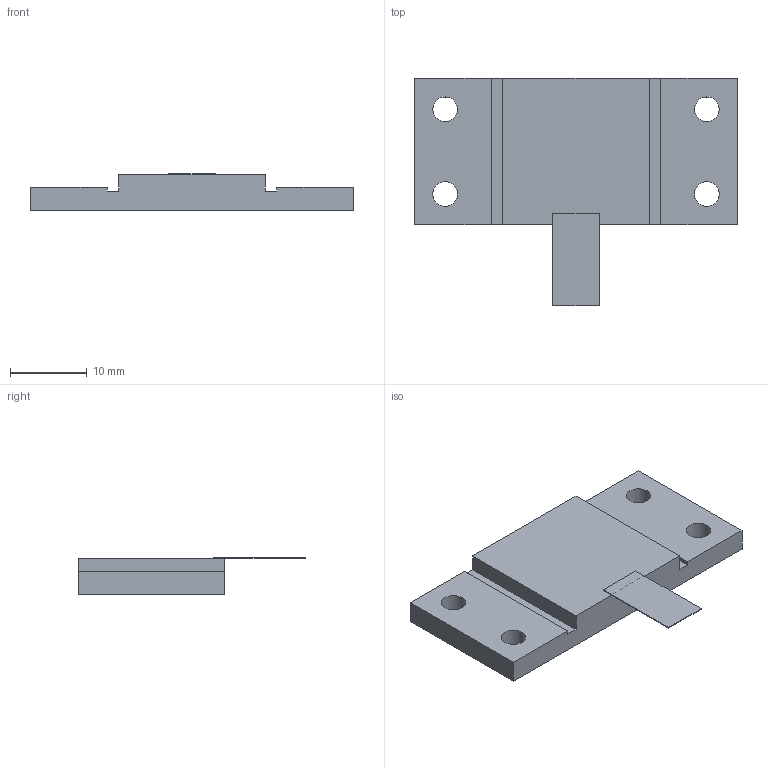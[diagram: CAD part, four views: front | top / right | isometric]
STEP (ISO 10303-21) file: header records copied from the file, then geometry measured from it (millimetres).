
FILE_DESCRIPTION(('STEP AP203'), '1');
FILE_NAME('Ð1-87-630-1', '', ('UNSPECIFIED'), ('UNSPECIFIED'), 'ASCON STEP Converter 1.6', 'ASCON Math Kernel', '');
FILE_SCHEMA(('CONFIG_CONTROL_DESIGN'));
Length unit declared in the file: millimetre
Bounding box: 42 x 29.5 x 4.8 mm (x, y, z)
Volume: 2889.9 mm3; surface area: 2557.4 mm2
Topology: 1 solids, 2 shells, 43 faces, 115 edges, 76 vertices
Faces by surface type: plane 35, cylinder 8
Full cylindrical faces by diameter (mm): 3.2 x4
Entity records: 1715 total; most frequent: CARTESIAN_POINT 231, ORIENTED_EDGE 222, DIRECTION 215, EDGE_CURVE 111, LINE 95, VECTOR 95, VERTEX_POINT 76, AXIS2_PLACEMENT_3D 60
